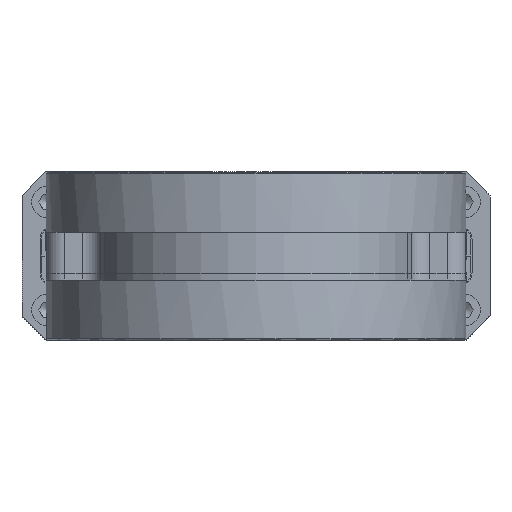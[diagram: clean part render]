
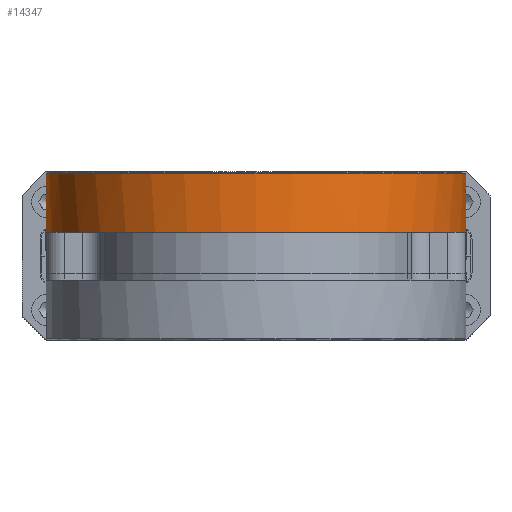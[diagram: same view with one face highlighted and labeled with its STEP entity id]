
A CAD part, front view. The second image highlights one B-rep face of the part: STEP entity #14347.
In plain terms, the highlighted cylindrical face has radius 87.475 mm (diameter 174.95 mm), a full revolution.
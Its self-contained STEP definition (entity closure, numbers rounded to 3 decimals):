
#6667=ELLIPSE('',#32251,174.95,87.475);
#6668=ELLIPSE('',#32253,174.95,87.475);
#6669=ELLIPSE('',#32254,174.95,87.475);
#6670=ELLIPSE('',#32256,174.95,87.475);
#7298=LINE('',#42256,#8936);
#7303=LINE('',#42268,#8941);
#7304=LINE('',#42270,#8942);
#7305=LINE('',#42274,#8943);
#7306=LINE('',#42275,#8944);
#7307=LINE('',#42280,#8945);
#7308=LINE('',#42284,#8946);
#7309=LINE('',#42288,#8947);
#7310=LINE('',#42292,#8948);
#7311=LINE('',#42296,#8949);
#8936=VECTOR('',#34988,1.);
#8941=VECTOR('',#34999,1.);
#8942=VECTOR('',#35000,1.);
#8943=VECTOR('',#35003,1.);
#8944=VECTOR('',#35004,1.);
#8945=VECTOR('',#35009,1.);
#8946=VECTOR('',#35012,1.);
#8947=VECTOR('',#35015,1.);
#8948=VECTOR('',#35018,1.);
#8949=VECTOR('',#35021,1.);
#14347=ADVANCED_FACE('BCT_REF_78804',(#16075,#16076,#16077,#16078),#15661,
 .T.);
#15661=CYLINDRICAL_SURFACE('',#32257,87.475);
#16075=FACE_BOUND('',#17182,.T.);
#16076=FACE_BOUND('',#17183,.T.);
#16077=FACE_BOUND('',#17184,.T.);
#16078=FACE_BOUND('',#17185,.T.);
#17182=EDGE_LOOP('',(#19619));
#17183=EDGE_LOOP('',(#19620,#19621,#19622,#19623,#19624,#19625,#19626,#19627,
#19628,#19629,#19630,#19631,#19632,#19633,#19634,#19635,#19636,#19637,#19638,
#19639));
#17184=EDGE_LOOP('',(#19640,#19641,#19642));
#17185=EDGE_LOOP('',(#19643,#19644,#19645));
#19619=ORIENTED_EDGE('',*,*,#28121,.T.);
#19620=ORIENTED_EDGE('',*,*,#28122,.T.);
#19621=ORIENTED_EDGE('',*,*,#28101,.F.);
#19622=ORIENTED_EDGE('',*,*,#28123,.F.);
#19623=ORIENTED_EDGE('',*,*,#28124,.T.);
#19624=ORIENTED_EDGE('',*,*,#28125,.T.);
#19625=ORIENTED_EDGE('',*,*,#28095,.T.);
#19626=ORIENTED_EDGE('',*,*,#28126,.F.);
#19627=ORIENTED_EDGE('',*,*,#28127,.T.);
#19628=ORIENTED_EDGE('',*,*,#28116,.F.);
#19629=ORIENTED_EDGE('',*,*,#28128,.T.);
#19630=ORIENTED_EDGE('',*,*,#28129,.T.);
#19631=ORIENTED_EDGE('',*,*,#28130,.F.);
#19632=ORIENTED_EDGE('',*,*,#28131,.F.);
#19633=ORIENTED_EDGE('',*,*,#28132,.F.);
#19634=ORIENTED_EDGE('',*,*,#28133,.T.);
#19635=ORIENTED_EDGE('',*,*,#28134,.F.);
#19636=ORIENTED_EDGE('',*,*,#28135,.F.);
#19637=ORIENTED_EDGE('',*,*,#28136,.T.);
#19638=ORIENTED_EDGE('',*,*,#28137,.T.);
#19639=ORIENTED_EDGE('',*,*,#28138,.T.);
#19640=ORIENTED_EDGE('',*,*,#28139,.F.);
#19641=ORIENTED_EDGE('',*,*,#28140,.F.);
#19642=ORIENTED_EDGE('',*,*,#28141,.F.);
#19643=ORIENTED_EDGE('',*,*,#28142,.T.);
#19644=ORIENTED_EDGE('',*,*,#28143,.T.);
#19645=ORIENTED_EDGE('',*,*,#28144,.T.);
#25690=VERTEX_POINT('',#42213);
#25691=VERTEX_POINT('',#42215);
#25696=VERTEX_POINT('',#42225);
#25697=VERTEX_POINT('',#42227);
#25710=VERTEX_POINT('',#42255);
#25711=VERTEX_POINT('',#42257);
#25714=VERTEX_POINT('',#42267);
#25715=VERTEX_POINT('',#42269);
#25716=VERTEX_POINT('',#42271);
#25717=VERTEX_POINT('',#42273);
#25718=VERTEX_POINT('',#42276);
#25719=VERTEX_POINT('',#42279);
#25720=VERTEX_POINT('',#42281);
#25721=VERTEX_POINT('',#42283);
#25722=VERTEX_POINT('',#42285);
#25723=VERTEX_POINT('',#42287);
#25724=VERTEX_POINT('',#42289);
#25725=VERTEX_POINT('',#42291);
#25726=VERTEX_POINT('',#42293);
#25727=VERTEX_POINT('',#42295);
#25728=VERTEX_POINT('',#42297);
#25729=VERTEX_POINT('',#42300);
#25730=VERTEX_POINT('',#42301);
#25731=VERTEX_POINT('',#42303);
#25732=VERTEX_POINT('',#42306);
#25733=VERTEX_POINT('',#42307);
#25734=VERTEX_POINT('',#42309);
#28095=EDGE_CURVE('',#25691,#25690,#31083,.T.);
#28101=EDGE_CURVE('',#25696,#25697,#31086,.T.);
#28116=EDGE_CURVE('',#25710,#25711,#7298,.T.);
#28121=EDGE_CURVE('',#25714,#25714,#31092,.T.);
#28122=EDGE_CURVE('',#25715,#25697,#7303,.T.);
#28123=EDGE_CURVE('',#25716,#25696,#7304,.T.);
#28124=EDGE_CURVE('',#25716,#25717,#31093,.T.);
#28125=EDGE_CURVE('',#25717,#25691,#7305,.T.);
#28126=EDGE_CURVE('',#25718,#25690,#7306,.T.);
#28127=EDGE_CURVE('',#25718,#25711,#31094,.T.);
#28128=EDGE_CURVE('',#25710,#25719,#31095,.T.);
#28129=EDGE_CURVE('',#25719,#25720,#7307,.T.);
#28130=EDGE_CURVE('',#25721,#25720,#31096,.T.);
#28131=EDGE_CURVE('',#25722,#25721,#7308,.T.);
#28132=EDGE_CURVE('',#25723,#25722,#31097,.T.);
#28133=EDGE_CURVE('',#25723,#25724,#7309,.T.);
#28134=EDGE_CURVE('',#25725,#25724,#31098,.T.);
#28135=EDGE_CURVE('BCT_REF_77910',#25726,#25725,#7310,.T.);
#28136=EDGE_CURVE('BCT_REF_77867',#25726,#25727,#31099,.T.);
#28137=EDGE_CURVE('',#25727,#25728,#7311,.T.);
#28138=EDGE_CURVE('',#25728,#25715,#31100,.T.);
#28139=EDGE_CURVE('',#25729,#25730,#6667,.T.);
#28140=EDGE_CURVE('BCT_REF_77995',#25731,#25729,#31101,.T.);
#28141=EDGE_CURVE('',#25730,#25731,#6668,.T.);
#28142=EDGE_CURVE('',#25732,#25733,#6669,.T.);
#28143=EDGE_CURVE('',#25733,#25734,#31102,.T.);
#28144=EDGE_CURVE('',#25734,#25732,#6670,.T.);
#31083=CIRCLE('',#32230,87.475);
#31086=CIRCLE('',#32233,87.475);
#31092=CIRCLE('',#32242,87.475);
#31093=CIRCLE('',#32243,87.475);
#31094=CIRCLE('',#32244,87.475);
#31095=CIRCLE('',#32245,87.475);
#31096=CIRCLE('',#32246,87.475);
#31097=CIRCLE('',#32247,87.475);
#31098=CIRCLE('',#32248,87.475);
#31099=CIRCLE('',#32249,87.475);
#31100=CIRCLE('',#32250,87.475);
#31101=CIRCLE('',#32252,87.475);
#31102=CIRCLE('',#32255,87.475);
#32230=AXIS2_PLACEMENT_3D('',#42214,#34956,#34957);
#32233=AXIS2_PLACEMENT_3D('',#42226,#34965,#34966);
#32242=AXIS2_PLACEMENT_3D('',#42266,#34997,#34998);
#32243=AXIS2_PLACEMENT_3D('',#42272,#35001,#35002);
#32244=AXIS2_PLACEMENT_3D('',#42277,#35005,#35006);
#32245=AXIS2_PLACEMENT_3D('',#42278,#35007,#35008);
#32246=AXIS2_PLACEMENT_3D('',#42282,#35010,#35011);
#32247=AXIS2_PLACEMENT_3D('',#42286,#35013,#35014);
#32248=AXIS2_PLACEMENT_3D('',#42290,#35016,#35017);
#32249=AXIS2_PLACEMENT_3D('',#42294,#35019,#35020);
#32250=AXIS2_PLACEMENT_3D('',#42298,#35022,#35023);
#32251=AXIS2_PLACEMENT_3D('',#42299,#35024,#35025);
#32252=AXIS2_PLACEMENT_3D('',#42302,#35026,#35027);
#32253=AXIS2_PLACEMENT_3D('',#42304,#35028,#35029);
#32254=AXIS2_PLACEMENT_3D('',#42305,#35030,#35031);
#32255=AXIS2_PLACEMENT_3D('',#42308,#35032,#35033);
#32256=AXIS2_PLACEMENT_3D('',#42310,#35034,#35035);
#32257=AXIS2_PLACEMENT_3D('',#42311,#35036,#35037);
#34956=DIRECTION('',(0.,-1.,0.));
#34957=DIRECTION('',(0.,0.,-1.));
#34965=DIRECTION('',(0.,1.,0.));
#34966=DIRECTION('',(0.,0.,-1.));
#34988=DIRECTION('',(0.,1.,0.));
#34997=DIRECTION('',(0.,1.,0.));
#34998=DIRECTION('',(0.,0.,1.));
#34999=DIRECTION('',(0.,1.,0.));
#35000=DIRECTION('',(0.,1.,0.));
#35001=DIRECTION('',(0.,-1.,0.));
#35002=DIRECTION('',(1.,0.,0.));
#35003=DIRECTION('',(0.,1.,0.));
#35004=DIRECTION('',(0.,1.,0.));
#35005=DIRECTION('',(0.,-1.,0.));
#35006=DIRECTION('',(1.,0.,0.));
#35007=DIRECTION('',(0.,-1.,0.));
#35008=DIRECTION('',(1.,0.,0.));
#35009=DIRECTION('',(0.,1.,0.));
#35010=DIRECTION('',(0.,1.,0.));
#35011=DIRECTION('',(1.,0.,0.));
#35012=DIRECTION('',(0.,1.,0.));
#35013=DIRECTION('',(0.,1.,0.));
#35014=DIRECTION('',(1.,0.,0.));
#35015=DIRECTION('',(0.,1.,0.));
#35016=DIRECTION('',(0.,1.,0.));
#35017=DIRECTION('',(1.,0.,0.));
#35018=DIRECTION('',(0.,1.,0.));
#35019=DIRECTION('',(0.,-1.,0.));
#35020=DIRECTION('',(1.,0.,0.));
#35021=DIRECTION('',(0.,1.,0.));
#35022=DIRECTION('',(0.,-1.,0.));
#35023=DIRECTION('',(1.,0.,0.));
#35024=DIRECTION('',(0.,-0.5,0.866));
#35025=DIRECTION('',(0.,0.866,0.5));
#35026=DIRECTION('',(0.,1.,0.));
#35027=DIRECTION('',(0.,0.,-1.));
#35028=DIRECTION('',(0.,-0.5,-0.866));
#35029=DIRECTION('',(0.,0.866,-0.5));
#35030=DIRECTION('',(0.,0.5,0.866));
#35031=DIRECTION('',(0.,0.866,-0.5));
#35032=DIRECTION('',(0.,-1.,0.));
#35033=DIRECTION('',(0.,0.,1.));
#35034=DIRECTION('',(0.,0.5,-0.866));
#35035=DIRECTION('',(0.,0.866,0.5));
#35036=DIRECTION('',(0.,1.,0.));
#35037=DIRECTION('',(0.,0.,1.));
#42213=CARTESIAN_POINT('',(-53.031,-14.7,69.567));
#42214=CARTESIAN_POINT('',(0.,-14.7,0.));
#42215=CARTESIAN_POINT('',(-20.661,-14.7,85.));
#42225=CARTESIAN_POINT('',(20.661,-14.7,85.));
#42226=CARTESIAN_POINT('',(0.,-14.7,0.));
#42227=CARTESIAN_POINT('',(53.031,-14.7,69.567));
#42255=CARTESIAN_POINT('',(-79.,-17.2,37.562));
#42256=CARTESIAN_POINT('',(-79.,-17.2,37.562));
#42257=CARTESIAN_POINT('',(-79.,-16.7,37.562));
#42266=CARTESIAN_POINT('',(0.,-41.7,0.));
#42267=CARTESIAN_POINT('',(0.,-41.7,87.475));
#42268=CARTESIAN_POINT('',(53.031,-16.7,69.567));
#42269=CARTESIAN_POINT('',(53.031,-16.7,69.567));
#42270=CARTESIAN_POINT('',(20.661,-25.2,85.));
#42271=CARTESIAN_POINT('',(20.661,-25.2,85.));
#42272=CARTESIAN_POINT('',(0.,-25.2,0.));
#42273=CARTESIAN_POINT('',(-20.661,-25.2,85.));
#42274=CARTESIAN_POINT('',(-20.661,-25.2,85.));
#42275=CARTESIAN_POINT('',(-53.031,-16.7,69.567));
#42276=CARTESIAN_POINT('',(-53.031,-16.7,69.567));
#42277=CARTESIAN_POINT('',(0.,-16.7,0.));
#42278=CARTESIAN_POINT('',(0.,-17.2,0.));
#42279=CARTESIAN_POINT('',(-87.475,-17.2,0.));
#42280=CARTESIAN_POINT('',(-87.475,-17.2,0.));
#42281=CARTESIAN_POINT('',(-87.475,0.,0.));
#42282=CARTESIAN_POINT('',(0.,0.,0.));
#42283=CARTESIAN_POINT('',(-87.304,0.,-5.469));
#42284=CARTESIAN_POINT('',(-87.304,-17.2,-5.469));
#42285=CARTESIAN_POINT('',(-87.304,-17.2,-5.469));
#42286=CARTESIAN_POINT('',(0.,-17.2,0.));
#42287=CARTESIAN_POINT('',(87.304,-17.2,-5.469));
#42288=CARTESIAN_POINT('',(87.304,-17.2,-5.469));
#42289=CARTESIAN_POINT('',(87.304,0.,-5.469));
#42290=CARTESIAN_POINT('',(0.,0.,0.));
#42291=CARTESIAN_POINT('',(87.475,0.,0.));
#42292=CARTESIAN_POINT('',(87.475,-17.2,0.));
#42293=CARTESIAN_POINT('',(87.475,-17.2,0.));
#42294=CARTESIAN_POINT('',(0.,-17.2,0.));
#42295=CARTESIAN_POINT('',(79.,-17.2,37.562));
#42296=CARTESIAN_POINT('',(79.,-17.2,37.562));
#42297=CARTESIAN_POINT('',(79.,-16.7,37.562));
#42298=CARTESIAN_POINT('',(0.,-16.7,0.));
#42299=CARTESIAN_POINT('',(0.,-30.7,0.));
#42300=CARTESIAN_POINT('',(87.445,-34.7,-2.309));
#42301=CARTESIAN_POINT('',(87.475,-30.7,0.));
#42302=CARTESIAN_POINT('',(0.,-34.7,0.));
#42303=CARTESIAN_POINT('',(87.445,-34.7,2.309));
#42304=CARTESIAN_POINT('',(0.,-30.7,0.));
#42305=CARTESIAN_POINT('',(0.,-30.7,0.));
#42306=CARTESIAN_POINT('',(-87.475,-30.7,0.));
#42307=CARTESIAN_POINT('',(-87.445,-34.7,2.309));
#42308=CARTESIAN_POINT('',(0.,-34.7,0.));
#42309=CARTESIAN_POINT('',(-87.445,-34.7,-2.309));
#42310=CARTESIAN_POINT('',(0.,-30.7,0.));
#42311=CARTESIAN_POINT('',(0.,-42.2,0.));
